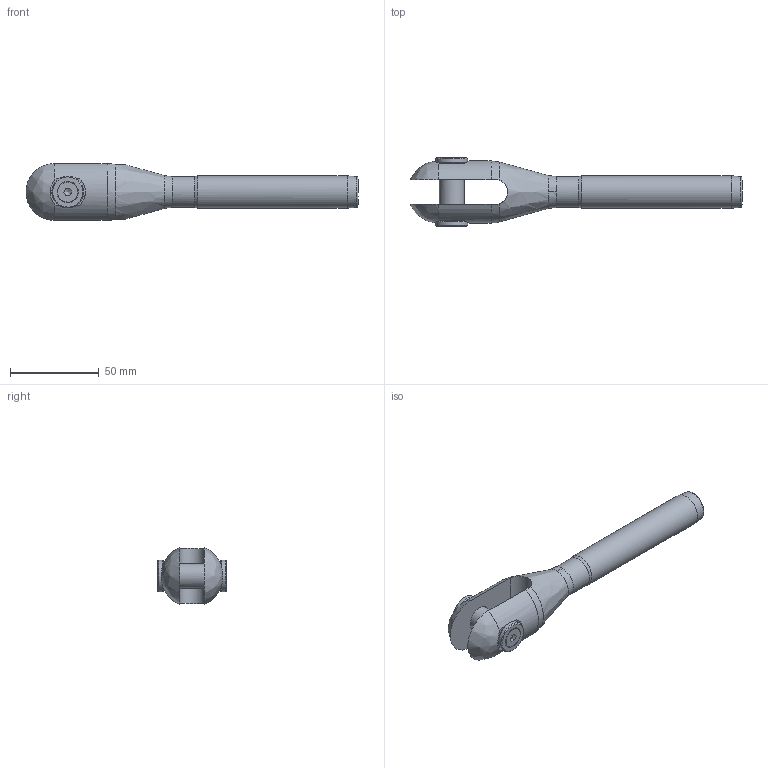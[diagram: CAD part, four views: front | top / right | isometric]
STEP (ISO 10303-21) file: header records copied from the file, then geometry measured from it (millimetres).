
FILE_DESCRIPTION(/* description */ (''),/* implementation_level */ '2;1');
FILE_NAME(/* name */ 'MAC 10_42CrMo4',/* time_stamp */ '2023-05-23T16:55:13+02:00',/* author */ (''),/* organization */ (''),/* preprocessor_version */ 'ST-DEVELOPER v16.5',/* originating_system */ 'Rhino 7.22',/* authorisation */ '');
FILE_SCHEMA (('CONFIG_CONTROL_DESIGN'));
Length unit declared in the file: millimetre
Products named in the file (1): Document
Bounding box: 187.03 x 39.12 x 32.08 mm (x, y, z)
Volume: 66071.9 mm3; surface area: 20457.4 mm2
Topology: 6 solids, 6 shells, 75 faces, 210 edges, 145 vertices
Faces by surface type: plane 29, bspline 24, cylinder 22
Full cylindrical faces by diameter (mm): 4.917 x2, 6 x2, 6.5 x2, 11.34 x2, 14 x1, 15 x2, 17.4 x1, 18 x2, 18.3 x1
Entity records: 3098 total; most frequent: CARTESIAN_POINT 1751, ORIENTED_EDGE 412, EDGE_CURVE 206, VERTEX_POINT 145, EDGE_LOOP 85, B_SPLINE_CURVE_WITH_KNOTS 84, ADVANCED_FACE 75, FACE_OUTER_BOUND 75
